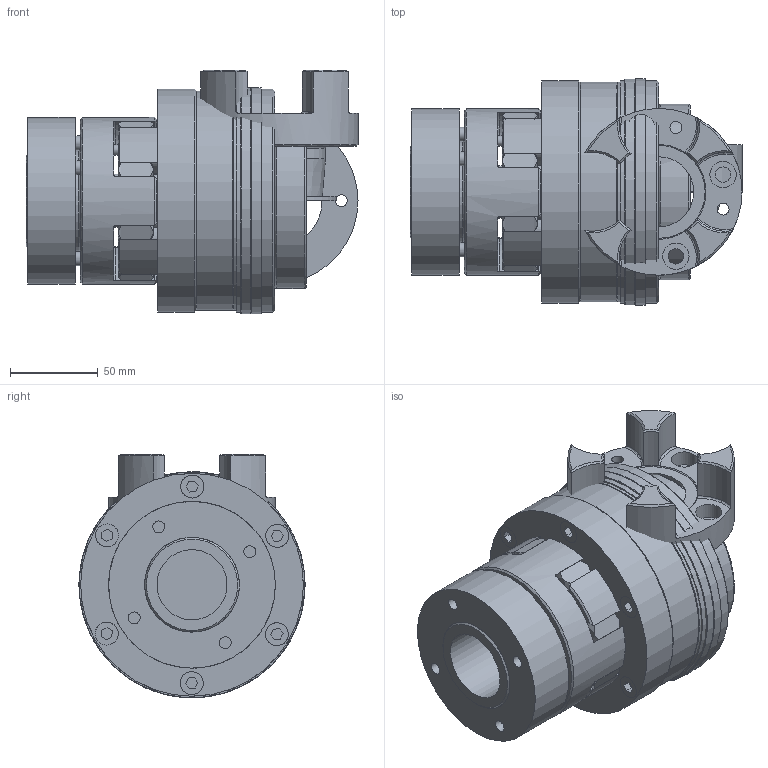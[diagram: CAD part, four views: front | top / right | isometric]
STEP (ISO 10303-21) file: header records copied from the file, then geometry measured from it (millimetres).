
FILE_DESCRIPTION( ( 'Unknown' ), '1' );
FILE_NAME( 'C:/Dokumente und Einstellungen/Sven/Desktop/hp kbk/E-AI/KBK EAI-42-177.stp', 'Unknown', ( 'Unknown' ), ( 'Unknown' ), 'XStep 1.0', 'Unknown', ' ' );
FILE_SCHEMA( ( 'automotive_design' ) );
Length unit declared in the file: millimetre
Products named in the file (19): Assem1; Assem2; Assem3; Zylinderschraube DIN 912_7; ball_bearing_-_6013_0_01_0; ball_bearing_-_6013_0_02_0; ball_bearing_-_6013_0_03_0; KBK L-I-500 Grundkörper_0; Konusbuchse 500_0; Stellring 500_0; Druckring 500_0; Flansch 500_0; a_65_0; din_en_24017_m8x30_2; Elastormerflansch 42_0; Zahnkranz 42_0; KBE 3 - 42_Nabe; KBE 3 - 42_Druckring_0; ISO EN DIN 4762 M8x35
Bounding box: 189.2 x 129 x 139 mm (x, y, z)
Volume: 2189202.2 mm3; surface area: 654212.4 mm2
Topology: 49 solids, 49 shells, 1194 faces, 2624 edges, 1677 vertices
Faces by surface type: plane 421, cylinder 396, cone 309, torus 68
Full cylindrical faces by diameter (mm): 3 x4, 3.242 x6, 5.1 x6, 5.2 x6, 6 x16, 6.647 x30, 6.8 x16, 7 x5, 8 x25, 8.2 x12, 8.8 x8, 9 x12, 11.63 x7, 13 x13, 13.1 x12, 15 x8, 35 x4, 40 x4, 46 x4, 58 x2, 62 x2, 62.6 x2, 65 x7, 76.3 x6, 86 x4, 89 x2, 89.1 x6, 91 x2, 95 x4, 100 x7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
Entity records: 13380 total; most frequent: CARTESIAN_POINT 2813, DIRECTION 2172, ORIENTED_EDGE 1636, AXIS2_PLACEMENT_3D 1009, EDGE_CURVE 818, EDGE_LOOP 760, VERTEX_POINT 612, FACE_OUTER_BOUND 580
